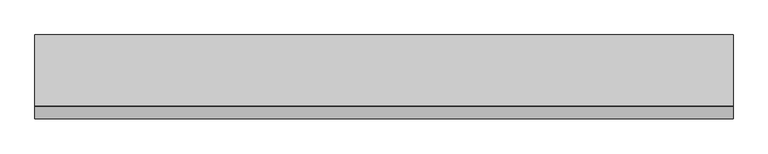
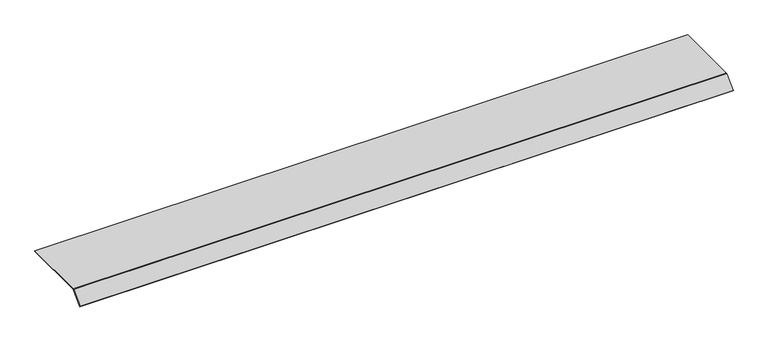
"""IFC4 building model written with IfcOpenShell, lengths in millimetres: proxy geometry, Electrical_Installation_Hager_Blank-Cover-800mm-Single-Sided-Height-70mm : Electrical_Installation_Hager_Blank-Cover-800mm-Single-Sided-Height-70mm."""

import ifcopenshell
import ifcopenshell.guid

model = None  # the IFC model being written
_history = None  # IfcOwnerHistory: only IFC2X3 demands one
_inside = {}  # id of a spatial element -> (the spatial element, [elements in it])
_under = {}  # id of a project, library or spatial element -> (it, [spatial elements below it])
_declared = {}  # id of a project -> (the project, [libraries it declares])
_typed = {}  # id of a type object -> (the type object, [elements of that type])
_made_of = {}  # id of a material, layer set ... -> (it, [elements and type objects made of it])


def new_model(schema):
    """Start an empty IFC model of exactly this schema.

    Asked for "IFC4X3", IfcOpenShell would pick the latest addendum, in which some entities
    have other attributes; the version numbers below select the first issue.
    IFC2X3 requires an IfcOwnerHistory on every rooted entity: one is made here for all.
    """
    global model, _history
    if schema == "IFC4X3":
        model = ifcopenshell.file(schema_version=(4, 3, 0, 0))
    else:
        model = ifcopenshell.file(schema=schema)
    _inside.clear()
    _under.clear()
    _declared.clear()
    _typed.clear()
    _made_of.clear()
    _history = None
    if model.schema == "IFC2X3":
        org = make("IfcOrganization", Name="unknown")
        user = make(
            "IfcPersonAndOrganization",
            ThePerson=make("IfcPerson", FamilyName="unknown"),
            TheOrganization=org,
        )
        app = make(
            "IfcApplication",
            ApplicationDeveloper=org,
            Version="unknown",
            ApplicationFullName="unknown",
            ApplicationIdentifier="unknown",
        )
        _history = make(
            "IfcOwnerHistory",
            OwningUser=user,
            OwningApplication=app,
            ChangeAction="ADDED",
            CreationDate=0,
        )
    return model


def make(cls, **values):
    """One entity of the class cls with the attributes given. An attribute that is None is left unset."""
    return model.create_entity(
        cls, **{name: value for name, value in values.items() if value is not None}
    )


def rooted(cls, **values):
    """An entity with a GlobalId (a new one), such as an element, a storey or a relation."""
    return make(cls, GlobalId=ifcopenshell.guid.new(), OwnerHistory=_history, **values)


def si_unit(unit_type, name, prefix=None):
    """IfcSIUnit, for example si_unit("LENGTHUNIT", "METRE", prefix="MILLI")."""
    return make("IfcSIUnit", UnitType=unit_type, Prefix=prefix, Name=name)


def assignment(units):
    """IfcUnitAssignment: the units of a project."""
    return None if units is None else make("IfcUnitAssignment", Units=units)


def point(xyz):
    """IfcCartesianPoint."""
    return None if xyz is None else make("IfcCartesianPoint", Coordinates=xyz)


def direction(xyz):
    """IfcDirection."""
    return None if xyz is None else make("IfcDirection", DirectionRatios=xyz)


def frame(location, z_axis=None, x_axis=None):
    """IfcAxis2Placement3D, a coordinate frame: its origin and axes. An axis left out is left unset."""
    return make(
        "IfcAxis2Placement3D",
        Location=point(location),
        Axis=direction(z_axis),
        RefDirection=direction(x_axis),
    )


def frame_2d(location, x_axis=None):
    """IfcAxis2Placement2D, a coordinate frame in the plane: its origin and x axis."""
    return make(
        "IfcAxis2Placement2D", Location=point(location), RefDirection=direction(x_axis)
    )


def origin():
    """The frame at (0, 0, 0) with its axes left unset."""
    return frame((0.0, 0.0, 0.0))


def place(relative_to, where):
    """IfcLocalPlacement: puts the frame where relative to a parent placement (None: the world)."""
    return make(
        "IfcLocalPlacement", PlacementRelTo=relative_to, RelativePlacement=where
    )


def context(
    kind, dimensions, precision=None, world=None, true_north=None, identifier=None
):
    """IfcGeometricRepresentationContext, for example the 3D "Model" context."""
    return make(
        "IfcGeometricRepresentationContext",
        ContextIdentifier=identifier,
        ContextType=kind,
        CoordinateSpaceDimension=dimensions,
        Precision=precision,
        WorldCoordinateSystem=world,
        TrueNorth=true_north,
    )


def project(units=None, contexts=None):
    """IfcProject with its units and contexts."""
    return rooted(
        "IfcProject",
        Name="project",
        RepresentationContexts=contexts,
        UnitsInContext=assignment(units),
    )


def spatial(cls, under=None, at=None, **own):
    """A site, building, storey or space (cls), placed at a placement, below another one or the project."""
    s = rooted(cls, ObjectPlacement=at, **own)
    if under is not None:
        _under.setdefault(under.id(), (under, []))[1].append(s)
    return s


def polyline(points):
    """IfcPolyline through the points."""
    return make("IfcPolyline", Points=[point(p) for p in points])


def circle_curve(where, radius):
    """IfcCircle in the frame where."""
    return make("IfcCircle", Position=where, Radius=radius)


def trimmed(basis, trim1, trim2, sense, master):
    """IfcTrimmedCurve: the piece of a basis curve between two trims."""
    return make(
        "IfcTrimmedCurve",
        BasisCurve=basis,
        Trim1=trim1,
        Trim2=trim2,
        SenseAgreement=sense,
        MasterRepresentation=master,
    )


def segment(curve, same_sense, transition):
    """IfcCompositeCurveSegment."""
    return make(
        "IfcCompositeCurveSegment",
        Transition=transition,
        SameSense=same_sense,
        ParentCurve=curve,
    )


def composite_curve(segments, self_intersect=None):
    """IfcCompositeCurve: segments joined end to end."""
    return make("IfcCompositeCurve", Segments=segments, SelfIntersect=self_intersect)


def outline(outer, holes=None, kind="AREA"):
    """IfcArbitraryClosedProfileDef: a profile drawn as a closed curve; with holes, ...WithVoids."""
    if holes is None:
        return make("IfcArbitraryClosedProfileDef", ProfileType=kind, OuterCurve=outer)
    return make(
        "IfcArbitraryProfileDefWithVoids",
        ProfileType=kind,
        OuterCurve=outer,
        InnerCurves=holes,
    )


def extrude(swept, where, along, depth):
    """IfcExtrudedAreaSolid: the profile swept, set in the frame where, extruded along a direction by depth."""
    return make(
        "IfcExtrudedAreaSolid",
        SweptArea=swept,
        Position=where,
        ExtrudedDirection=direction(along),
        Depth=depth,
    )


def shape(context_of_items, identifier, shape_type, items):
    """IfcShapeRepresentation: the items that make up one representation, for example the "Body"."""
    return make(
        "IfcShapeRepresentation",
        ContextOfItems=context_of_items,
        RepresentationIdentifier=identifier,
        RepresentationType=shape_type,
        Items=items,
    )


def source(mapping_origin, context_of_items, identifier, shape_type, items):
    """IfcRepresentationMap: a shape defined once, which mapped items show again and again."""
    return make(
        "IfcRepresentationMap",
        MappingOrigin=mapping_origin,
        MappedRepresentation=shape(context_of_items, identifier, shape_type, items),
    )


def transform(
    local_origin,
    x_axis=None,
    y_axis=None,
    z_axis=None,
    scale=None,
    scale2=None,
    scale3=None,
    uniform=True,
):
    """IfcCartesianTransformationOperator3D, or its non-uniform kind. x_axis, y_axis, z_axis: its Axis1, 2, 3."""
    if uniform:
        return make(
            "IfcCartesianTransformationOperator3D",
            Axis1=direction(x_axis),
            Axis2=direction(y_axis),
            LocalOrigin=point(local_origin),
            Scale=scale,
            Axis3=direction(z_axis),
        )
    return make(
        "IfcCartesianTransformationOperator3DnonUniform",
        Axis1=direction(x_axis),
        Axis2=direction(y_axis),
        LocalOrigin=point(local_origin),
        Scale=scale,
        Axis3=direction(z_axis),
        Scale2=scale2,
        Scale3=scale3,
    )


def mapped(mapping_source, mapping_target):
    """IfcMappedItem: shows the shape of a source again, moved by a transform."""
    return make(
        "IfcMappedItem", MappingSource=mapping_source, MappingTarget=mapping_target
    )


def made_of(thing, what):
    """Note that an element or type object is made of a material, layer set ...; save() writes the relation."""
    if what is not None:
        _made_of.setdefault(what.id(), (what, []))[1].append(thing)
    return thing


def element(
    cls,
    number,
    at=None,
    inside=None,
    cuts=None,
    type_object=None,
    material=None,
    context=None,
    identifier="Body",
    shape_type=None,
    held_by="IfcProductDefinitionShape",
    body=None,
    shapes=None,
    **own,
):
    """One element of the class cls, such as IfcWall. Its Tag is "e" and its number.

    at: its placement. inside: the storey or other place that contains it. cuts: it is an
    opening in that element (IfcRelVoidsElement). A single representation is given by context,
    identifier, shape_type and body (its items); several are given by shapes. held_by: the class
    of the entity that holds the representations. save() writes the other relations.
    """
    e = rooted(cls, Tag="e%d" % number, ObjectPlacement=at, **own)
    if body is not None:
        shapes = [shape(context, identifier, shape_type, body)]
    if shapes is not None:
        e.Representation = make(held_by, Representations=shapes)
    if inside is not None:
        _inside.setdefault(inside.id(), (inside, []))[1].append(e)
    if cuts is not None:
        rooted(
            "IfcRelVoidsElement", RelatingBuildingElement=cuts, RelatedOpeningElement=e
        )
    if type_object is not None:
        _typed.setdefault(type_object.id(), (type_object, []))[1].append(e)
    return made_of(e, material)


def aggregate(whole, parts):
    """IfcRelAggregates: a whole, such as a stair, and the parts it consists of."""
    return rooted("IfcRelAggregates", RelatingObject=whole, RelatedObjects=parts)


def save(model, path):
    """Write the relations noted so far, then the file.

    IfcRelAggregates (storeys below a building ...), IfcRelContainedInSpatialStructure (elements
    in a storey), IfcRelDefinesByType, IfcRelAssociatesMaterial and IfcRelDeclares: one each for
    every whole, place, type object, material and project.
    """
    for whole, parts in _under.values():
        aggregate(whole, parts)
    for where, things in _inside.values():
        rooted(
            "IfcRelContainedInSpatialStructure",
            RelatedElements=things,
            RelatingStructure=where,
        )
    for kind, things in _typed.values():
        rooted("IfcRelDefinesByType", RelatedObjects=things, RelatingType=kind)
    for what, things in _made_of.values():
        rooted("IfcRelAssociatesMaterial", RelatedObjects=things, RelatingMaterial=what)
    for by, libraries in _declared.values():
        rooted("IfcRelDeclares", RelatingContext=by, RelatedDefinitions=libraries)
    model.write(path)


def electrical_fixtures_e8eaa7e9(model_context):
    return source(origin(), model_context, "Body", "SweptSolid", [
        extrude(outline(composite_curve([segment(polyline([(200.0, 40.5), (200.0, 37.5), (-199.8229541, 37.5)]), True, "CONTINUOUS"), segment(trimmed(circle_curve(frame_2d((-199.8229541, 36.0725733)), 1.4274267), [point((-199.8229541, 37.5))], [point((-200.8322972, 37.0819164))], True, "CARTESIAN"), True, "CONTINUOUS"), segment(polyline([(-200.8322972, 37.0819164), (-268.6627596, -30.7485461), (-270.78408, -28.6272257), (-202.8206472, 39.336207)]), True, "CONTINUOUS"), segment(trimmed(circle_curve(frame_2d((-200.0110025, 36.5265623)), 3.9734377), [point((-202.8206472, 39.336207))], [point((-200.0110025, 40.5))], False, "CARTESIAN"), True, "CONTINUOUS"), segment(polyline([(-200.0110025, 40.5), (200.0, 40.5)]), True, "CONTINUOUS")], self_intersect=False)), frame((0.0, 0.0, 0.0), z_axis=(1.0, 0.0, 0.0), x_axis=(0.0, 1.0, 0.0)), (0.0, 0.0, 1.0), 3920.0),
    ])


if __name__ == "__main__":
    model = new_model("IFC4")
    model_context = context("Model", 3, world=origin())
    ifc_project = project(units=[si_unit("LENGTHUNIT", "METRE", prefix="MILLI")], contexts=[model_context])
    site = spatial("IfcSite", under=ifc_project)
    building = spatial("IfcBuilding", under=site)
    placement = place(None, origin())
    electrical_fixtures_shape = electrical_fixtures_e8eaa7e9(model_context)
    element("IfcBuildingElementProxy", 1, Name="Electrical_Installation_Hager_Blank-Cover-800mm-Single-Sided-Height-70mm : Electrical_Installation_Hager_Blank-Cover-800mm-Single-Sided-Height-70mm", ObjectType="Electrical_Installation_Hager_Blank-Cover-800mm-Single-Sided-Height-70mm : Electrical_Installation_Hager_Blank-Cover-800mm-Single-Sided-Height-70mm", at=placement, inside=building, context=model_context, shape_type="MappedRepresentation", body=[
        mapped(electrical_fixtures_shape, transform((0.0, 0.0, 0.0), x_axis=(1.0, 0.0, 0.0), y_axis=(0.0, 1.0, 0.0), z_axis=(0.0, 0.0, 1.0))),
    ])
    save(model, "model.ifc")
